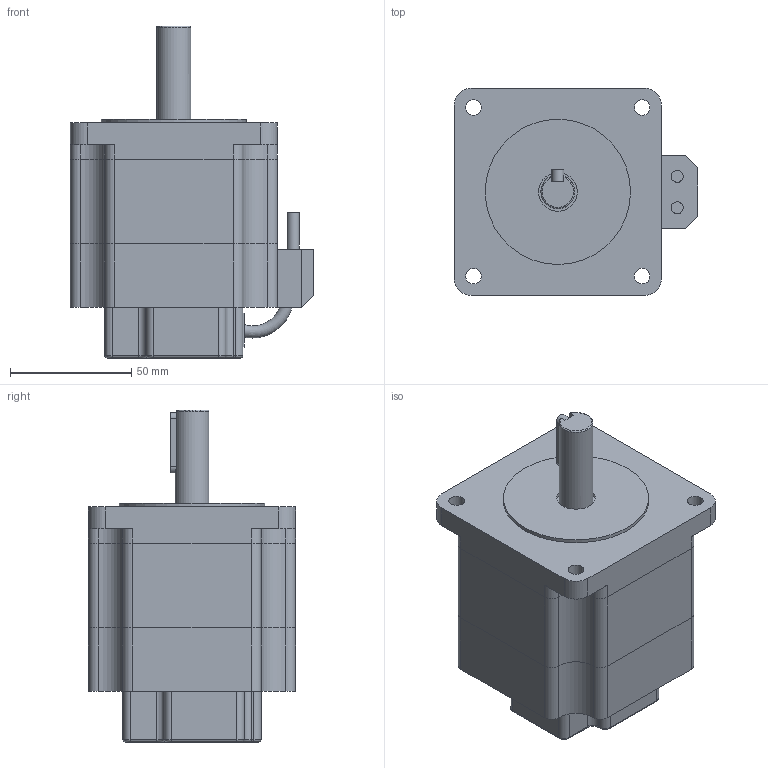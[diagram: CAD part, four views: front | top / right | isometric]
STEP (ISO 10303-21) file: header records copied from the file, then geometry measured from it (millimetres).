
FILE_DESCRIPTION(/* description */ (''),/* implementation_level */ '2;1');
FILE_NAME(/* name */ 'STP-86D2001.stp',/* time_stamp */ '2018-08-31T16:19:06+08:00',/* author */ (''),/* organization */ (''),/* preprocessor_version */ 'ST-DEVELOPER v11',/* originating_system */ 'SIEMENS UGS NX 6.0',/* authorisation */ '');
FILE_SCHEMA (('CONFIG_CONTROL_DESIGN'));
Length unit declared in the file: millimetre
Products named in the file (1): STP-86D2001
Bounding box: 100.5 x 85.5 x 137.1 mm (x, y, z)
Volume: 583280.9 mm3; surface area: 76143.9 mm2
Topology: 5 solids, 5 shells, 178 faces, 455 edges, 296 vertices
Faces by surface type: plane 87, cylinder 76, torus 15
Full cylindrical faces by diameter (mm): 5 x2, 6.5 x4, 14 x1, 16 x1, 60 x1
Entity records: 5567 total; most frequent: CARTESIAN_POINT 1083, DIRECTION 958, ORIENTED_EDGE 878, EDGE_CURVE 439, AXIS2_PLACEMENT_3D 345, VERTEX_POINT 291, LINE 268, VECTOR 268
